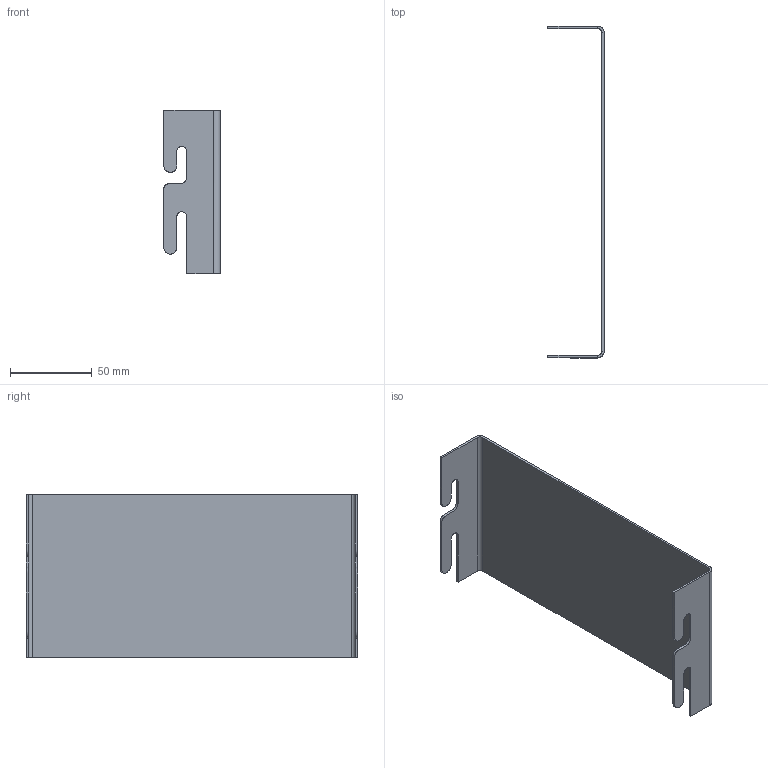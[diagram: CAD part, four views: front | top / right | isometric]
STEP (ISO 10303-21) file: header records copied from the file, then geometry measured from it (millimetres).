
FILE_DESCRIPTION(/* description */ (''),/* implementation_level */ '2;1');
FILE_NAME(/* name */ 'DZMU1_~1',/* time_stamp */ '2024-01-28T21:15:07+01:00',/* author */ (''),/* organization */ (''),/* preprocessor_version */ 'ST-DEVELOPER v16.5',/* originating_system */ '',/* authorisation */ '');
FILE_SCHEMA (('CONFIG_CONTROL_DESIGN'));
Length unit declared in the file: millimetre
Products named in the file (1): Document
Bounding box: 34.5 x 203 x 100 mm (x, y, z)
Volume: 38342.3 mm3; surface area: 52488.2 mm2
Topology: 1 solids, 1 shells, 22 faces, 44 edges, 24 vertices
Faces by surface type: plane 12, bspline 6, cylinder 4
Entity records: 856 total; most frequent: CARTESIAN_POINT 494, ORIENTED_EDGE 88, EDGE_CURVE 44, VERTEX_POINT 24, ADVANCED_FACE 22, FACE_OUTER_BOUND 22, EDGE_LOOP 22, DIRECTION 20
